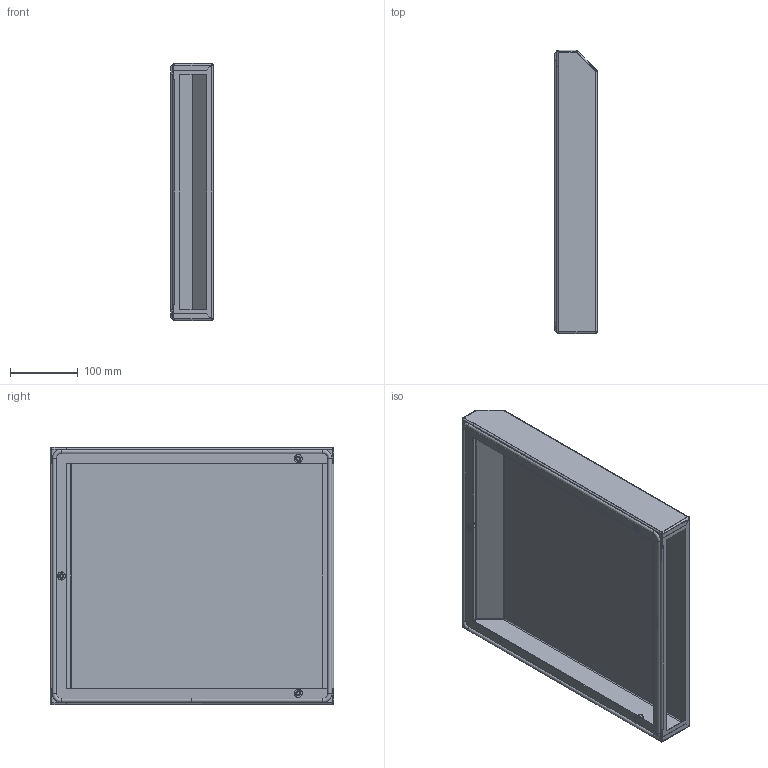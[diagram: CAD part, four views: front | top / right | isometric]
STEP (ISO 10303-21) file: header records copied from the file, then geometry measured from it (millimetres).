
FILE_DESCRIPTION (( 'STEP AP203' ), '1' );
FILE_NAME ('R 20 FA 01.000 ﾑﾁ ﾊ鮻 鈞隆 蓁 粢炅齏.STEP', '2022-05-11T14:36:43', ( '' ), ( '' ), 'SwSTEP 2.0', 'SolidWorks 2018', '' );
FILE_SCHEMA (( 'CONFIG_CONTROL_DESIGN' ));
Length unit declared in the file: millimetre
Products named in the file (4): Çàêëåïêà îö. âûòÿæíàÿ ðåçüáîâàÿ ðèôëåíàÿ Ì6_ƒ ©ª  Œ6 ¢ëâï¦­ ï - S2.0; R 12 FA 00.001 ﾊ鮻 鈞隆 蓁 粢炅齏_R 20 FA 00.001 EPLAN; R 20 FA 01.000 ﾑﾁ ﾊ鮻 鈞隆 蓁 粢炅齏; 逄鋋襡樇鳺 鼨錒膰膼碭嬅R 20 FA S
Assembly tree (5 placements, depth 2):
  R 20 FA 01.000 ﾑﾁ ﾊ鮻 鈞隆 蓁 粢炅齏
    R 12 FA 00.001 ﾊ鮻 鈞隆 蓁 粢炅齏_R 20 FA 00.001 EPLAN
    逄鋋襡樇鳺 鼨錒膰膼碭嬅R 20 FA S
    Çàêëåïêà îö. âûòÿæíàÿ ðåçüáîâàÿ ðèôëåíàÿ Ì6_ƒ ©ª  Œ6 ¢ëâï¦­ ï - S2.0  x3
Bounding box: 62.98 x 419.08 x 380 mm (x, y, z)
Volume: 387302.7 mm3; surface area: 548193.9 mm2
Topology: 5 solids, 5 shells, 200 faces, 448 edges, 264 vertices
Faces by surface type: plane 97, cylinder 65, torus 18, bspline 12, cone 6, sphere 2
Entity records: 5499 total; most frequent: CARTESIAN_POINT 1478, DIRECTION 749, ORIENTED_EDGE 728, EDGE_CURVE 364, AXIS2_PLACEMENT_3D 263, VECTOR 223, LINE 223, VERTEX_POINT 212
